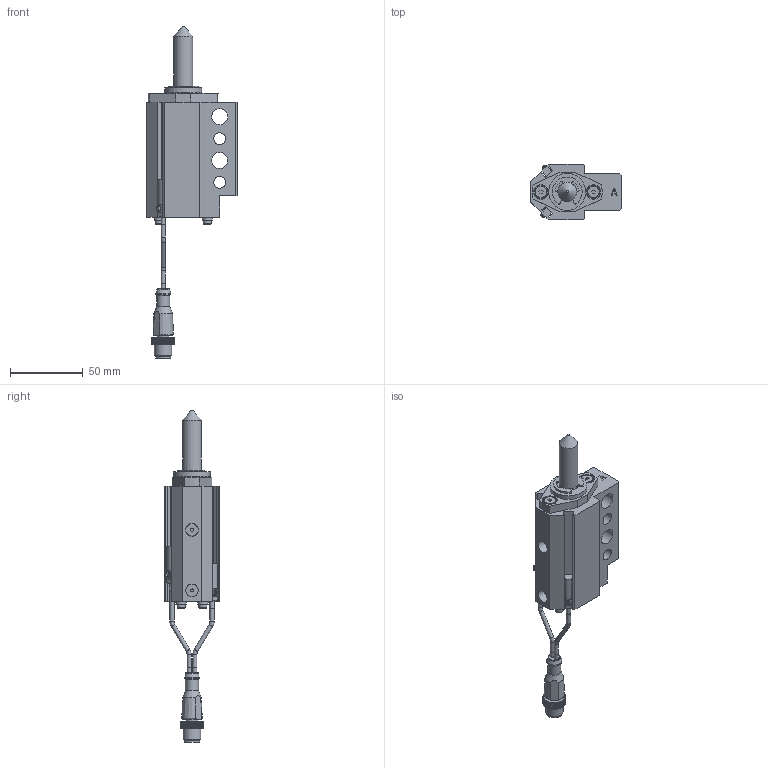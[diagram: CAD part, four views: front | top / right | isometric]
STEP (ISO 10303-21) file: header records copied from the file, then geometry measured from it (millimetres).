
FILE_DESCRIPTION(/* description */ ('NAAMS FLOATING MICRO PIN'),/* implementation_level */ '2;1');
FILE_NAME(/* name */ 'C:\Vault Workspace\CAD\Welker\Shot Pin\NMP\NMP130032AANL3.stp',/* time_stamp */ '2021-01-27T10:54:39-05:00',/* author */ ('WELKER'),/* organization */ (''),/* preprocessor_version */ 'ST-DEVELOPER v18.1',/* originating_system */ 'Autodesk Inventor 2020',/* authorisation */ '');
FILE_SCHEMA (('AUTOMOTIVE_DESIGN { 1 0 10303 214 3 1 1 }'));
Length unit declared in the file: millimetre
Products named in the file (16): NMPL01; NMP L3 SWITCH; L3 Connector; L3 Sensor 1; L3 Sensor 2; L3 Sensor cable; L3 Sensor cable 2; M3X0.5-8 SHCS; NL3; NMPE06; NMPE03; NMPE05-DIA-LENGTH; 985432A218; NMPE01A-PORT; RMPE02; M5X5 SHOULDER
Assembly tree (22 placements, depth 3):
  NMPL01
    NMP L3 SWITCH
      L3 Connector
      L3 Sensor 1
      L3 Sensor 2
      L3 Sensor cable
      L3 Sensor cable 2
    M3X0.5-8 SHCS  x4
    NL3  x4
    NMPE06
    NMPE03
    NMPE05-DIA-LENGTH
    985432A218
    NMPE01A-PORT
    RMPE02
    M5X5 SHOULDER  x2
Bounding box: 62 x 38.1 x 227.71 mm (x, y, z)
Volume: 112406.4 mm3; surface area: 46435.3 mm2
Topology: 21 solids, 21 shells, 742 faces, 2013 edges, 1345 vertices
Faces by surface type: plane 552, cylinder 143, cone 31, torus 11, sphere 3, bspline 2
Full cylindrical faces by diameter (mm): 2 x2, 2.459 x4, 2.9 x10, 3 x5, 3.242 x2, 3.4 x4, 4 x2, 5 x6, 5.5 x4, 7 x4, 8 x2, 8.3 x2, 9 x3, 10 x3, 10.4 x1, 10.5 x1, 11 x2, 12 x1, 13 x3, 16 x2, 19.05 x3, 21 x1, 22.5 x1, 23.672 x1, 24 x1, 25.4 x1, 25.5 x1, 26.5 x1, 28.677 x1, 29.21 x1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
Entity records: 22687 total; most frequent: CARTESIAN_POINT 4144, ORIENTED_EDGE 3724, DIRECTION 3704, EDGE_CURVE 1862, LINE 1382, VECTOR 1382, VERTEX_POINT 1250, AXIS2_PLACEMENT_3D 1161
